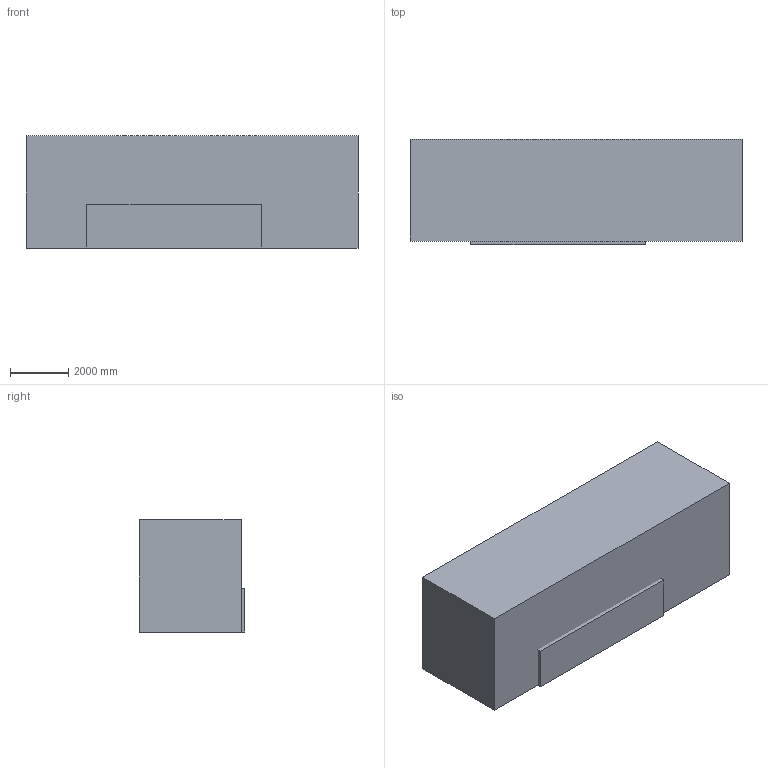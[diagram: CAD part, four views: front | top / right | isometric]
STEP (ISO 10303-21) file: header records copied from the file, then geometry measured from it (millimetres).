
FILE_DESCRIPTION( ( 'STEP Version 203' ), '1' );
FILE_NAME( ' ', '01/17/12 11:48:19', ( 'sasilves' ), ( ' ' ), 'PSStep 14.0', 'DesignModeler STEP Output', ' ' );
FILE_SCHEMA( ( 'AUTOMOTIVE_DESIGN { 1 0 10303 214 1 1 1 1 }' ) );
Length unit declared in the file: metre
Products named in the file (2): 1; 2
Bounding box: 11411.76 x 3617.81 x 3850.01 mm (x, y, z)
Surface area: 243886454.7 mm2
Topology: 2 solids, 2 shells, 89 faces, 252 edges, 165 vertices
Faces by surface type: plane 52, bspline 31, torus 2, extrusion 2, cylinder 2
Entity records: 14907 total; most frequent: CARTESIAN_POINT 12943, ORIENTED_EDGE 488, DIRECTION 252, EDGE_CURVE 244, VERTEX_POINT 163, B_SPLINE_CURVE_WITH_KNOTS 125, VECTOR 104, LINE 102
